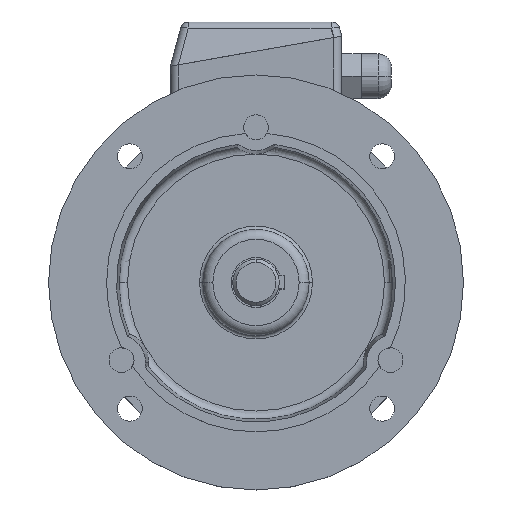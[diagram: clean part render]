
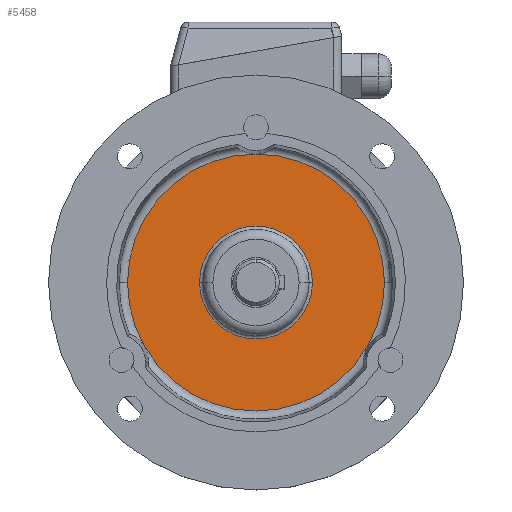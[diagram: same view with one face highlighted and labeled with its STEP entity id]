
A CAD part, top view. The second image highlights one B-rep face of the part: STEP entity #5458.
In plain terms, the highlighted planar face has unit normal (0, 0, 1).
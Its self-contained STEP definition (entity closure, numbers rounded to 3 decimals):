
#410 = ORIENTED_EDGE ( 'NONE', *, *, #13282, .F. ) ;
#16814 = VERTEX_POINT ( 'NONE', #19329 ) ;
#16815 = VERTEX_POINT ( 'NONE', #19344 ) ;
#481 = CIRCLE ( 'NONE', #482, 34. ) ;
#482 = AXIS2_PLACEMENT_3D ( 'NONE', #483, #484, #485 ) ;
#483 = CARTESIAN_POINT ( 'NONE',  ( 0., 0., 26. ) ) ;
#484 = DIRECTION ( 'NONE',  ( 0., 0., -1. ) ) ;
#485 = DIRECTION ( 'NONE',  ( -1., 0., 0. ) ) ;
#1080 = ORIENTED_EDGE ( 'NONE', *, *, #17736, .F. ) ;
#17736 = EDGE_CURVE ( 'NONE', #18475, #18852, #20032, .T. ) ;
#18475 = VERTEX_POINT ( 'NONE', #20673 ) ;
#2151 = EDGE_LOOP ( 'NONE', ( #1080, #410 ) ) ;
#18852 = VERTEX_POINT ( 'NONE', #21650 ) ;
#2654 = ORIENTED_EDGE ( 'NONE', *, *, #22514, .T. ) ;
#19329 = CARTESIAN_POINT ( 'NONE',  ( 34., 0., 26. ) ) ;
#19344 = CARTESIAN_POINT ( 'NONE',  ( -34., 0., 26. ) ) ;
#20032 = CIRCLE ( 'NONE', #20033, 77.406 ) ;
#20033 = AXIS2_PLACEMENT_3D ( 'NONE', #20034, #20035, #20036 ) ;
#20034 = CARTESIAN_POINT ( 'NONE',  ( 0., 0., 26. ) ) ;
#20035 = DIRECTION ( 'NONE',  ( 0., 0., -1. ) ) ;
#20036 = DIRECTION ( 'NONE',  ( -1., 0., 0. ) ) ;
#3728 = EDGE_CURVE ( 'NONE', #16815, #16814, #5647, .T. ) ;
#20673 = CARTESIAN_POINT ( 'NONE',  ( -77.406, 0., 26. ) ) ;
#4509 = ORIENTED_EDGE ( 'NONE', *, *, #3728, .T. ) ;
#5244 = EDGE_LOOP ( 'NONE', ( #4509, #2654 ) ) ;
#21650 = CARTESIAN_POINT ( 'NONE',  ( 77.406, 0., 26. ) ) ;
#5458 = ADVANCED_FACE ( 'NONE', ( #7025, #7026 ), #7027, .T. ) ;
#5647 = CIRCLE ( 'NONE', #5648, 34. ) ;
#5648 = AXIS2_PLACEMENT_3D ( 'NONE', #5649, #5650, #5657 ) ;
#5649 = CARTESIAN_POINT ( 'NONE',  ( 0., 0., 26. ) ) ;
#5650 = DIRECTION ( 'NONE',  ( 0., 0., -1. ) ) ;
#5657 = DIRECTION ( 'NONE',  ( -1., 0., 0. ) ) ;
#22514 = EDGE_CURVE ( 'NONE', #16814, #16815, #481, .T. ) ;
#7025 = FACE_BOUND ( 'NONE', #5244, .T. ) ;
#7026 = FACE_OUTER_BOUND ( 'NONE', #2151, .T. ) ;
#7027 = PLANE ( 'NONE',  #7028 ) ;
#7028 = AXIS2_PLACEMENT_3D ( 'NONE', #7029, #7030, #7031 ) ;
#7029 = CARTESIAN_POINT ( 'NONE',  ( -77.406, 0., 26. ) ) ;
#7030 = DIRECTION ( 'NONE',  ( 0., 0., 1. ) ) ;
#7031 = DIRECTION ( 'NONE',  ( 1., 0., 0. ) ) ;
#13282 = EDGE_CURVE ( 'NONE', #18852, #18475, #15463, .T. ) ;
#15463 = CIRCLE ( 'NONE', #15464, 77.406 ) ;
#15464 = AXIS2_PLACEMENT_3D ( 'NONE', #15465, #15466, #15467 ) ;
#15465 = CARTESIAN_POINT ( 'NONE',  ( 0., 0., 26. ) ) ;
#15466 = DIRECTION ( 'NONE',  ( 0., 0., -1. ) ) ;
#15467 = DIRECTION ( 'NONE',  ( -1., 0., 0. ) ) ;
